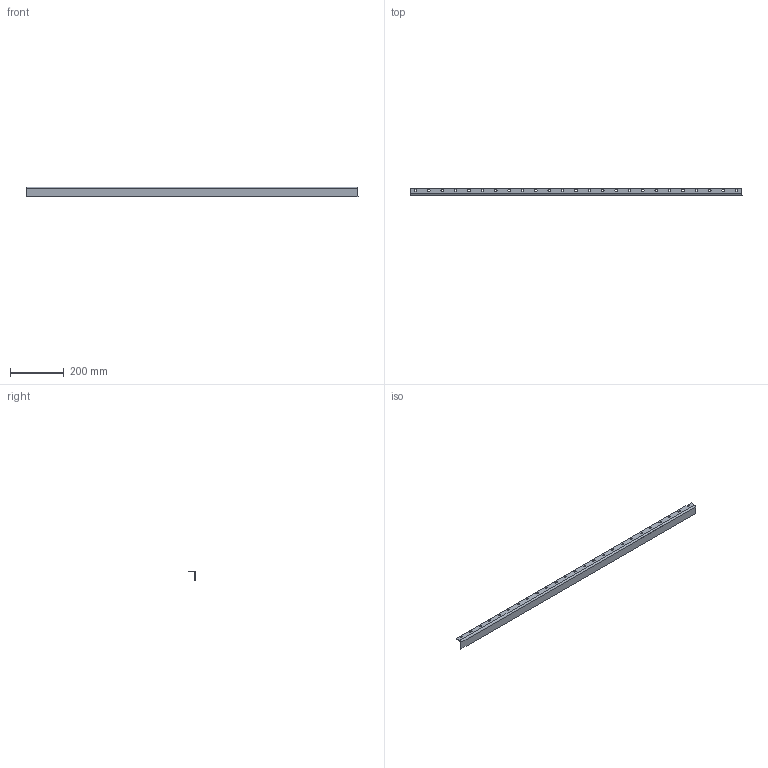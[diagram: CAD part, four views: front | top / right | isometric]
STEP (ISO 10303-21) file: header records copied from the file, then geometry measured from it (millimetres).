
FILE_DESCRIPTION (( 'STEP AP203' ), '1' );
FILE_NAME ('ORW-72.24.20.10.005 赶鎀鍧.STEP', '2025-10-13T13:18:56', ( '燴僽樥' ), ( '' ), 'SwSTEP 2.0', 'SolidWorks 2025', '' );
FILE_SCHEMA (( 'CONFIG_CONTROL_DESIGN' ));
Length unit declared in the file: millimetre
Products named in the file (1): ORW-72.24.20.10.005 Уголок
Bounding box: 1241 x 25 x 36 mm (x, y, z)
Volume: 205395.7 mm3; surface area: 146641 mm2
Topology: 1 solids, 1 shells, 114 faces, 328 edges, 216 vertices
Faces by surface type: plane 62, cylinder 52
Entity records: 3927 total; most frequent: DIRECTION 662, CARTESIAN_POINT 659, ORIENTED_EDGE 656, EDGE_CURVE 328, VECTOR 224, LINE 224, AXIS2_PLACEMENT_3D 219, VERTEX_POINT 216
